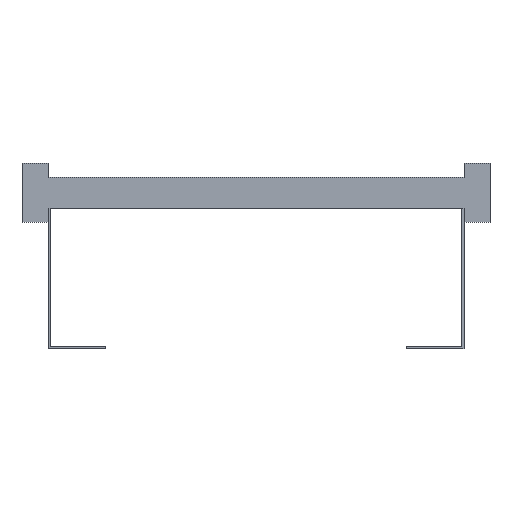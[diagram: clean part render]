
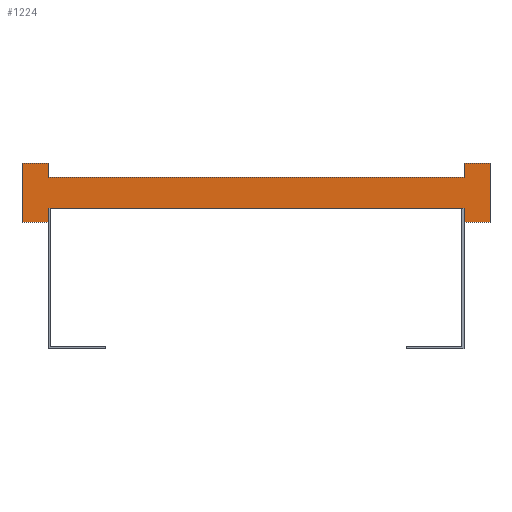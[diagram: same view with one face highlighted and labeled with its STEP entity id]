
A CAD part, front view. The second image highlights one B-rep face of the part: STEP entity #1224.
In plain terms, the highlighted planar face has unit normal (0, -1, 0).
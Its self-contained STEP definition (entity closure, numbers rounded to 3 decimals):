
#113=DIRECTION('',(0.,0.,1.));
#114=VECTOR('',#113,13.5);
#115=CARTESIAN_POINT('',(200.,0.,-28.5));
#116=LINE('',#115,#114);
#117=DIRECTION('',(0.,0.,-1.));
#118=VECTOR('',#117,13.5);
#119=CARTESIAN_POINT('',(-200.,0.,-15.));
#120=LINE('',#119,#118);
#121=DIRECTION('',(-1.,0.,0.));
#122=VECTOR('',#121,25.);
#123=CARTESIAN_POINT('',(-200.,0.,-28.5));
#124=LINE('',#123,#122);
#125=DIRECTION('',(0.,0.,1.));
#126=VECTOR('',#125,57.);
#127=CARTESIAN_POINT('',(-225.,0.,-28.5));
#128=LINE('',#127,#126);
#129=DIRECTION('',(1.,0.,0.));
#130=VECTOR('',#129,25.);
#131=CARTESIAN_POINT('',(-225.,0.,28.5));
#132=LINE('',#131,#130);
#133=DIRECTION('',(0.,0.,-1.));
#134=VECTOR('',#133,13.5);
#135=CARTESIAN_POINT('',(-200.,0.,28.5));
#136=LINE('',#135,#134);
#137=DIRECTION('',(0.,0.,1.));
#138=VECTOR('',#137,13.5);
#139=CARTESIAN_POINT('',(200.,0.,15.));
#140=LINE('',#139,#138);
#141=DIRECTION('',(1.,0.,0.));
#142=VECTOR('',#141,25.);
#143=CARTESIAN_POINT('',(200.,0.,28.5));
#144=LINE('',#143,#142);
#145=DIRECTION('',(0.,0.,-1.));
#146=VECTOR('',#145,57.);
#147=CARTESIAN_POINT('',(225.,0.,28.5));
#148=LINE('',#147,#146);
#149=DIRECTION('',(-1.,0.,0.));
#150=VECTOR('',#149,25.);
#151=CARTESIAN_POINT('',(225.,0.,-28.5));
#152=LINE('',#151,#150);
#913=DIRECTION('',(1.,0.,0.));
#914=VECTOR('',#913,400.);
#915=CARTESIAN_POINT('',(-200.,0.,-15.));
#916=LINE('',#915,#914);
#925=DIRECTION('',(1.,0.,0.));
#926=VECTOR('',#925,400.);
#927=CARTESIAN_POINT('',(-200.,0.,15.));
#928=LINE('',#927,#926);
#929=CARTESIAN_POINT('',(-225.,0.,28.5));
#930=CARTESIAN_POINT('',(-200.,0.,28.5));
#931=VERTEX_POINT('',#929);
#932=VERTEX_POINT('',#930);
#933=CARTESIAN_POINT('',(-200.,0.,-28.5));
#934=CARTESIAN_POINT('',(-225.,0.,-28.5));
#935=VERTEX_POINT('',#933);
#936=VERTEX_POINT('',#934);
#937=CARTESIAN_POINT('',(225.,0.,28.5));
#938=CARTESIAN_POINT('',(225.,0.,-28.5));
#939=VERTEX_POINT('',#937);
#940=VERTEX_POINT('',#938);
#941=CARTESIAN_POINT('',(200.,0.,-28.5));
#942=VERTEX_POINT('',#941);
#943=CARTESIAN_POINT('',(200.,0.,28.5));
#944=VERTEX_POINT('',#943);
#961=CARTESIAN_POINT('',(-200.,0.,-15.));
#963=VERTEX_POINT('',#961);
#965=CARTESIAN_POINT('',(-200.,0.,15.));
#967=VERTEX_POINT('',#965);
#969=CARTESIAN_POINT('',(200.,0.,-15.));
#971=VERTEX_POINT('',#969);
#973=CARTESIAN_POINT('',(200.,0.,15.));
#975=VERTEX_POINT('',#973);
#1193=CARTESIAN_POINT('',(0.,0.,0.));
#1194=DIRECTION('',(0.,1.,0.));
#1195=DIRECTION('',(1.,0.,0.));
#1196=AXIS2_PLACEMENT_3D('',#1193,#1194,#1195);
#1197=PLANE('',#1196);
#1199=ORIENTED_EDGE('',*,*,#1198,.T.);
#1201=ORIENTED_EDGE('',*,*,#1200,.F.);
#1203=ORIENTED_EDGE('',*,*,#1202,.T.);
#1205=ORIENTED_EDGE('',*,*,#1204,.T.);
#1207=ORIENTED_EDGE('',*,*,#1206,.T.);
#1209=ORIENTED_EDGE('',*,*,#1208,.T.);
#1211=ORIENTED_EDGE('',*,*,#1210,.T.);
#1213=ORIENTED_EDGE('',*,*,#1212,.T.);
#1215=ORIENTED_EDGE('',*,*,#1214,.T.);
#1217=ORIENTED_EDGE('',*,*,#1216,.T.);
#1219=ORIENTED_EDGE('',*,*,#1218,.T.);
#1221=ORIENTED_EDGE('',*,*,#1220,.T.);
#1222=EDGE_LOOP('',(#1199,#1201,#1203,#1205,#1207,#1209,#1211,#1213,#1215,#1217,
#1219,#1221));
#1223=FACE_OUTER_BOUND('',#1222,.F.);
#1198=EDGE_CURVE('',#942,#971,#116,.T.);
#1200=EDGE_CURVE('',#963,#971,#916,.T.);
#1202=EDGE_CURVE('',#963,#935,#120,.T.);
#1204=EDGE_CURVE('',#935,#936,#124,.T.);
#1206=EDGE_CURVE('',#936,#931,#128,.T.);
#1208=EDGE_CURVE('',#931,#932,#132,.T.);
#1210=EDGE_CURVE('',#932,#967,#136,.T.);
#1212=EDGE_CURVE('',#967,#975,#928,.T.);
#1214=EDGE_CURVE('',#975,#944,#140,.T.);
#1216=EDGE_CURVE('',#944,#939,#144,.T.);
#1218=EDGE_CURVE('',#939,#940,#148,.T.);
#1220=EDGE_CURVE('',#940,#942,#152,.T.);
#1224=ADVANCED_FACE('',(#1223),#1197,.F.);
